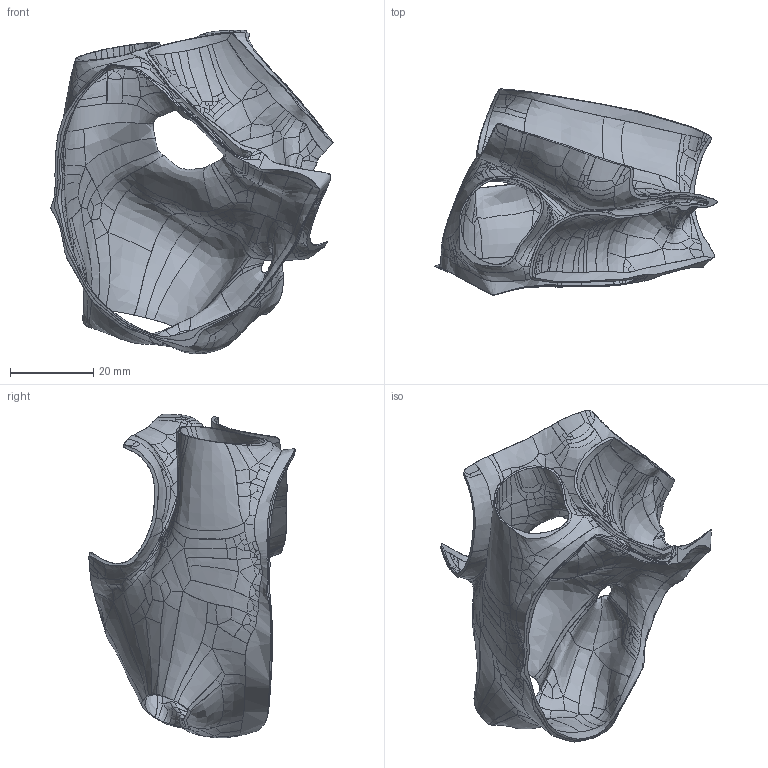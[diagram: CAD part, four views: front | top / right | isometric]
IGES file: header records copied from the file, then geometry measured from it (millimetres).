
Global section: file name: C:\FDA Main\FDA-Septal-Models\0129542\0129542.phase.70.igs; native system: Rhinoceros ( Mar  9 2011 ); preprocessor: Trout Lake IGES 012 Mar  9 2011; date: 120503.153645; units: millimetre
Bounding box: 67.78 x 49.57 x 77.76 mm (x, y, z)
Surface area: 20655 mm2 (no closed solid volume)
Topology: 0 solids, 0 shells, 1040 faces, 4157 edges, 4154 vertices
Faces by surface type: bspline 1040
